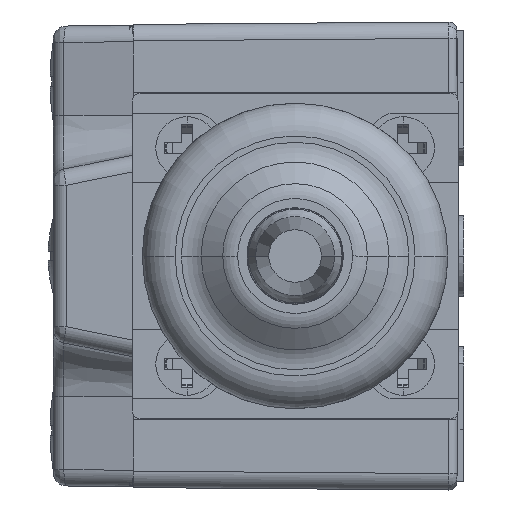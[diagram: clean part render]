
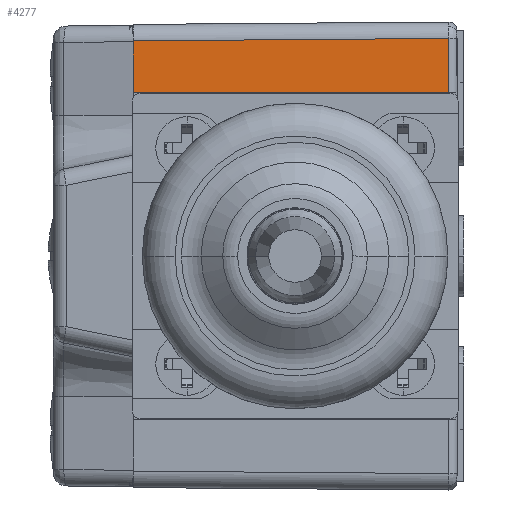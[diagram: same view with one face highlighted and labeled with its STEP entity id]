
A CAD part, left-side view. The second image highlights one B-rep face of the part: STEP entity #4277.
In plain terms, the highlighted planar face has unit normal (-1, 0, 0).
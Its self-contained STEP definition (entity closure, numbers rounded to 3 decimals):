
#569=CARTESIAN_POINT('',(0.4,0.5,13.236));
#598=DIRECTION('',(0.,0.,1.));
#599=VECTOR('',#598,3.286);
#600=CARTESIAN_POINT('',(0.4,0.5,9.95));
#601=LINE('',#600,#599);
#606=DIRECTION('',(0.,-1.,0.008));
#607=VECTOR('',#606,19.201);
#608=CARTESIAN_POINT('',(0.4,19.7,13.09));
#609=LINE('',#608,#607);
#610=DIRECTION('',(0.,-1.,0.));
#611=VECTOR('',#610,19.2);
#612=CARTESIAN_POINT('',(0.4,19.7,9.95));
#613=LINE('',#612,#611);
#689=DIRECTION('',(0.,0.,-1.));
#690=VECTOR('',#689,3.14);
#691=CARTESIAN_POINT('',(0.4,19.7,13.09));
#692=LINE('',#691,#690);
#3302=VERTEX_POINT('',#569);
#3303=CARTESIAN_POINT('',(0.4,19.7,13.09));
#3304=VERTEX_POINT('',#3303);
#3306=CARTESIAN_POINT('',(0.4,0.5,
9.95));
#3307=VERTEX_POINT('',#3306);
#3316=CARTESIAN_POINT('',(0.4,19.7,9.95));
#3317=VERTEX_POINT('',#3316);
#4264=CARTESIAN_POINT('',(0.4,0.,-14.24));
#4265=DIRECTION('',(-1.,0.,0.));
#4266=DIRECTION('',(0.,0.,1.));
#4267=AXIS2_PLACEMENT_3D('',#4264,#4265,#4266);
#4268=PLANE('',#4267);
#4269=ORIENTED_EDGE('',*,*,#4255,.F.);
#4271=ORIENTED_EDGE('',*,*,#4270,.F.);
#4273=ORIENTED_EDGE('',*,*,#4272,.F.);
#4274=ORIENTED_EDGE('',*,*,#4212,.T.);
#4275=EDGE_LOOP('',(#4269,#4271,#4273,#4274));
#4276=FACE_OUTER_BOUND('',#4275,.F.);
#4277=ADVANCED_FACE('',(#4276),#4268,.T.);
#4212=EDGE_CURVE('',#3304,#3302,#609,.T.);
#4255=EDGE_CURVE('',#3307,#3302,#601,.T.);
#4270=EDGE_CURVE('',#3317,#3307,#613,.T.);
#4272=EDGE_CURVE('',#3304,#3317,#692,.T.);
